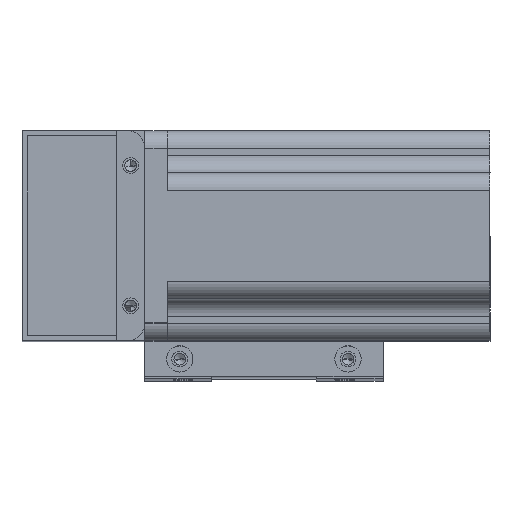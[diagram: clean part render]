
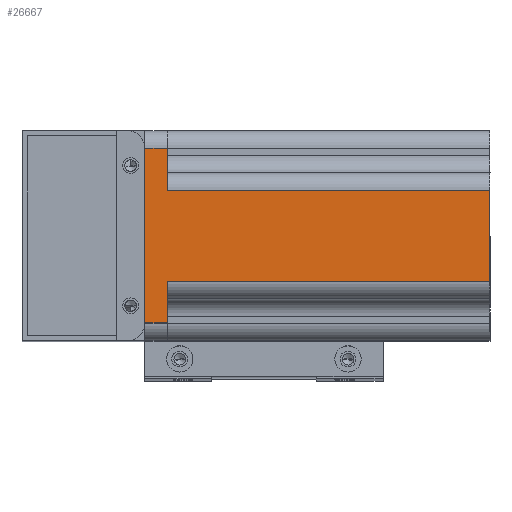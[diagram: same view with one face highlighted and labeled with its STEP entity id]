
A CAD part, top view. The second image highlights one B-rep face of the part: STEP entity #26667.
In plain terms, the highlighted planar face has unit normal (0, 0, 1) as drawn and (-1, 0, 0) by its records, which use the part's own axes.
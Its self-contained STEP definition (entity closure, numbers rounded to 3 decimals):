
#2164 = LINE ( 'NONE', #10974, #20948 ) ;
#2626 = VECTOR ( 'NONE', #22432, 1000. ) ;
#3062 = VECTOR ( 'NONE', #12102, 1000. ) ;
#3133 = VERTEX_POINT ( 'NONE', #19086 ) ;
#3357 = LINE ( 'NONE', #9193, #15873 ) ;
#3630 = VERTEX_POINT ( 'NONE', #17996 ) ;
#3793 = CARTESIAN_POINT ( 'NONE',  ( -30., 25., 0. ) ) ;
#3808 = CARTESIAN_POINT ( 'NONE',  ( -30., -25., 0. ) ) ;
#3810 = DIRECTION ( 'NONE',  ( 0., 1., 0. ) ) ;
#4056 = CARTESIAN_POINT ( 'NONE',  ( -30., 13., 6.5 ) ) ;
#4481 = ORIENTED_EDGE ( 'NONE', *, *, #15457, .F. ) ;
#5384 = LINE ( 'NONE', #3808, #3062 ) ;
#5974 = DIRECTION ( 'NONE',  ( 0., 0., -1. ) ) ;
#6269 = VECTOR ( 'NONE', #3810, 1000. ) ;
#6760 = VERTEX_POINT ( 'NONE', #10994 ) ;
#7165 = CARTESIAN_POINT ( 'NONE',  ( -30., -25., 6.5 ) ) ;
#7359 = CARTESIAN_POINT ( 'NONE',  ( -30., -18., -92. ) ) ;
#7420 = DIRECTION ( 'NONE',  ( 0., 0., -1. ) ) ;
#7697 = EDGE_CURVE ( 'NONE', #6760, #3630, #13663, .T. ) ;
#7799 = PLANE ( 'NONE',  #20790 ) ;
#8215 = LINE ( 'NONE', #9996, #2626 ) ;
#8238 = LINE ( 'NONE', #21566, #17768 ) ;
#8951 = ORIENTED_EDGE ( 'NONE', *, *, #23668, .T. ) ;
#9193 = CARTESIAN_POINT ( 'NONE',  ( -30., -25., 6.5 ) ) ;
#9394 = DIRECTION ( 'NONE',  ( 0., -1., 0. ) ) ;
#9921 = EDGE_CURVE ( 'NONE', #20486, #3133, #16850, .T. ) ;
#9996 = CARTESIAN_POINT ( 'NONE',  ( -30., -25., 0. ) ) ;
#10641 = CARTESIAN_POINT ( 'NONE',  ( -30., -13., 0. ) ) ;
#10964 = VERTEX_POINT ( 'NONE', #15095 ) ;
#10974 = CARTESIAN_POINT ( 'NONE',  ( -30., -13., 6.5 ) ) ;
#10994 = CARTESIAN_POINT ( 'NONE',  ( -30., 13., 0. ) ) ;
#11589 = ORIENTED_EDGE ( 'NONE', *, *, #26463, .T. ) ;
#12102 = DIRECTION ( 'NONE',  ( 0., -1., 0. ) ) ;
#12849 = CARTESIAN_POINT ( 'NONE',  ( -30., -13., -92. ) ) ;
#13663 = LINE ( 'NONE', #4056, #15000 ) ;
#13871 = VECTOR ( 'NONE', #17010, 1000. ) ;
#14850 = LINE ( 'NONE', #7359, #6269 ) ;
#15000 = VECTOR ( 'NONE', #5974, 1000. ) ;
#15095 = CARTESIAN_POINT ( 'NONE',  ( -30., 25., 6.5 ) ) ;
#15457 = EDGE_CURVE ( 'NONE', #23424, #3630, #14850, .T. ) ;
#15491 = DIRECTION ( 'NONE',  ( 0., 0., 1. ) ) ;
#15698 = ORIENTED_EDGE ( 'NONE', *, *, #16774, .T. ) ;
#15841 = ORIENTED_EDGE ( 'NONE', *, *, #9921, .F. ) ;
#15873 = VECTOR ( 'NONE', #9394, 1000. ) ;
#15910 = CARTESIAN_POINT ( 'NONE',  ( -30., -25., 6.5 ) ) ;
#15933 = FACE_OUTER_BOUND ( 'NONE', #20547, .T. ) ;
#16306 = VERTEX_POINT ( 'NONE', #10641 ) ;
#16774 = EDGE_CURVE ( 'NONE', #23424, #16306, #2164, .T. ) ;
#16850 = LINE ( 'NONE', #19367, #13871 ) ;
#17010 = DIRECTION ( 'NONE',  ( 0., 0., -1. ) ) ;
#17768 = VECTOR ( 'NONE', #21920, 1000. ) ;
#17996 = CARTESIAN_POINT ( 'NONE',  ( -30., 13., -92. ) ) ;
#18297 = DIRECTION ( 'NONE',  ( 1., 0., 0. ) ) ;
#19086 = CARTESIAN_POINT ( 'NONE',  ( -30., -25., 0. ) ) ;
#19367 = CARTESIAN_POINT ( 'NONE',  ( -30., -25., 6.5 ) ) ;
#20486 = VERTEX_POINT ( 'NONE', #7165 ) ;
#20547 = EDGE_LOOP ( 'NONE', ( #4481, #15698, #11589, #15841, #22212, #20979, #8951, #26691 ) ) ;
#20790 = AXIS2_PLACEMENT_3D ( 'NONE', #15910, #18297, #7420 ) ;
#20948 = VECTOR ( 'NONE', #15491, 1000. ) ;
#20979 = ORIENTED_EDGE ( 'NONE', *, *, #22707, .T. ) ;
#21566 = CARTESIAN_POINT ( 'NONE',  ( -30., 25., 6.5 ) ) ;
#21920 = DIRECTION ( 'NONE',  ( 0., 0., -1. ) ) ;
#22212 = ORIENTED_EDGE ( 'NONE', *, *, #27332, .F. ) ;
#22432 = DIRECTION ( 'NONE',  ( 0., -1., 0. ) ) ;
#22707 = EDGE_CURVE ( 'NONE', #10964, #25041, #8238, .T. ) ;
#23424 = VERTEX_POINT ( 'NONE', #12849 ) ;
#23668 = EDGE_CURVE ( 'NONE', #25041, #6760, #8215, .T. ) ;
#25041 = VERTEX_POINT ( 'NONE', #3793 ) ;
#26463 = EDGE_CURVE ( 'NONE', #16306, #3133, #5384, .T. ) ;
#26667 = ADVANCED_FACE ( 'NONE', ( #15933 ), #7799, .F. ) ;
#26691 = ORIENTED_EDGE ( 'NONE', *, *, #7697, .T. ) ;
#27332 = EDGE_CURVE ( 'NONE', #10964, #20486, #3357, .T. ) ;
